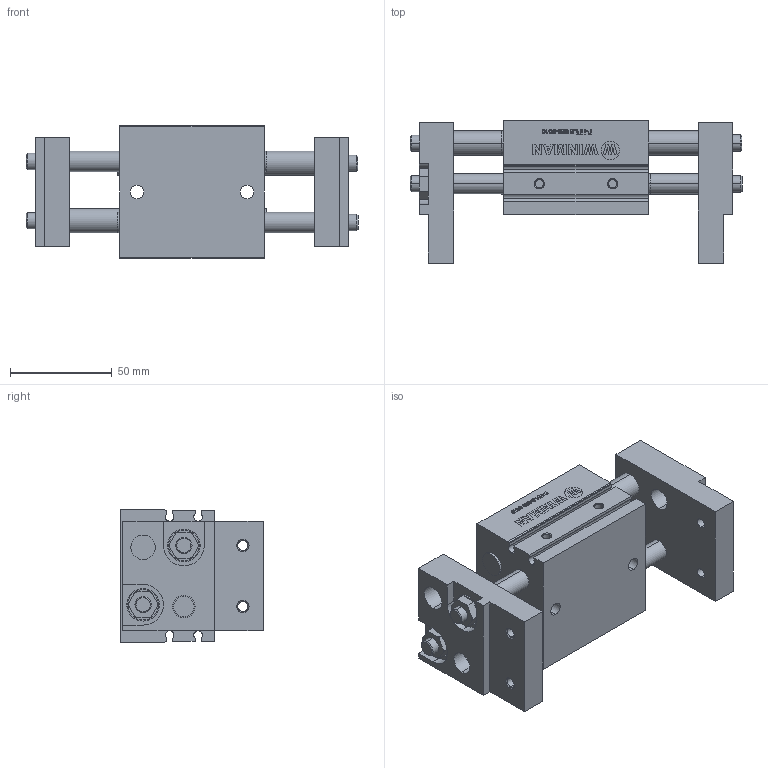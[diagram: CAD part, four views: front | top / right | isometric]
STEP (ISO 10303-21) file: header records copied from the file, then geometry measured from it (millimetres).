
FILE_DESCRIPTION (( 'STEP AP214' ), '1' );
FILE_NAME ('F-HFL2-020-0040 (3D).STEP', '2019-10-16T07:12:51', ( '' ), ( '' ), 'SwSTEP 2.0', 'SolidWorks 2016', '' );
FILE_SCHEMA (( 'AUTOMOTIVE_DESIGN' ));
Length unit declared in the file: millimetre
Products named in the file (3): F-HFL2-020-0040 (3D); F-HFL2-020-0040_body; F-HFL2-020-0040_rod
Assembly tree (3 placements, depth 2):
  F-HFL2-020-0040 (3D)
    F-HFL2-020-0040_body
    F-HFL2-020-0040_rod  x2
Bounding box: 163 x 70 x 65 mm (x, y, z)
Volume: 307814.1 mm3; surface area: 83569.3 mm2
Topology: 3 solids, 3 shells, 566 faces, 1441 edges, 950 vertices
Faces by surface type: plane 317, cylinder 121, bspline 96, cone 32
Entity records: 21321 total; most frequent: CARTESIAN_POINT 7275, ORIENTED_EDGE 2352, DIRECTION 1982, EDGE_CURVE 1176, VECTOR 776, LINE 776, VERTEX_POINT 776, AXIS2_PLACEMENT_3D 603
